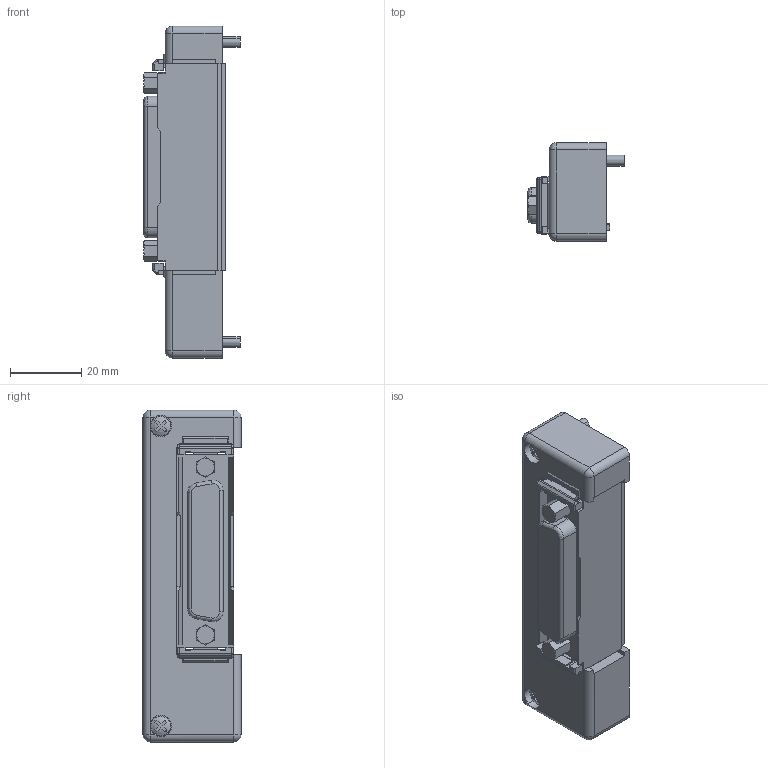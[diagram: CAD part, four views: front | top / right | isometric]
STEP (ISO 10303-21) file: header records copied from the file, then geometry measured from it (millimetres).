
FILE_DESCRIPTION( (''), '2;1');
FILE_NAME ('CVICAD02.5148.FZX-D2xx-EN_23232.stp','2021-07-12T19:21:41',(''),(''),'spGate 12.6.6','','');
FILE_SCHEMA (('AUTOMOTIVE_DESIGN'));
Length unit declared in the file: millimetre
Products named in the file (3): Assembly; CVICAD02-prt0; CVICAD02-prt1
Assembly tree (2 placements, depth 2):
  Assembly
    CVICAD02-prt0
    CVICAD02-prt1
Bounding box: 27 x 27.5 x 93 mm (x, y, z)
Volume: 35991.7 mm3; surface area: 14069.7 mm2
Topology: 2 solids, 2 shells, 309 faces, 882 edges, 560 vertices
Faces by surface type: plane 211, cylinder 61, bspline 21, sphere 16
Entity records: 17000 total; most frequent: CARTESIAN_POINT 2187, ORIENTED_EDGE 1740, DIRECTION 1594, COLOUR_RGB 1181, PRESENTATION_STYLE_ASSIGNMENT 1181, STYLED_ITEM 1181, EDGE_CURVE 870, DRAUGHTING_PRE_DEFINED_CURVE_FONT 870
